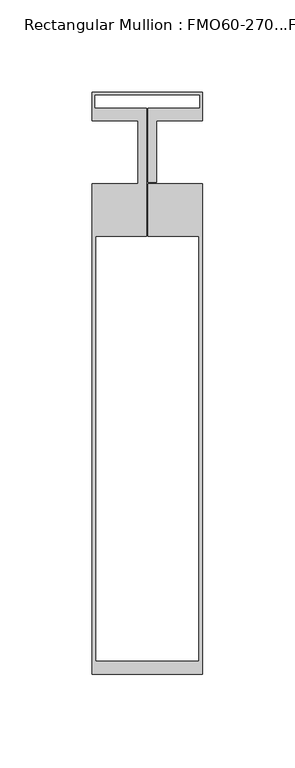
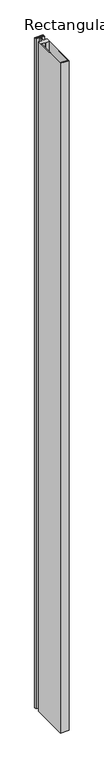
"""IFC4 building model written with IfcOpenShell, lengths in millimetres: member geometry, Rectangular Mullion : FMO60-270...FM60-11."""

import ifcopenshell
import ifcopenshell.guid

model = None  # the IFC model being written
_history = None  # IfcOwnerHistory: only IFC2X3 demands one
_inside = {}  # id of a spatial element -> (the spatial element, [elements in it])
_under = {}  # id of a project, library or spatial element -> (it, [spatial elements below it])
_declared = {}  # id of a project -> (the project, [libraries it declares])
_typed = {}  # id of a type object -> (the type object, [elements of that type])
_made_of = {}  # id of a material, layer set ... -> (it, [elements and type objects made of it])


def new_model(schema):
    """Start an empty IFC model of exactly this schema.

    Asked for "IFC4X3", IfcOpenShell would pick the latest addendum, in which some entities
    have other attributes; the version numbers below select the first issue.
    IFC2X3 requires an IfcOwnerHistory on every rooted entity: one is made here for all.
    """
    global model, _history
    if schema == "IFC4X3":
        model = ifcopenshell.file(schema_version=(4, 3, 0, 0))
    else:
        model = ifcopenshell.file(schema=schema)
    _inside.clear()
    _under.clear()
    _declared.clear()
    _typed.clear()
    _made_of.clear()
    _history = None
    if model.schema == "IFC2X3":
        org = make("IfcOrganization", Name="unknown")
        user = make(
            "IfcPersonAndOrganization",
            ThePerson=make("IfcPerson", FamilyName="unknown"),
            TheOrganization=org,
        )
        app = make(
            "IfcApplication",
            ApplicationDeveloper=org,
            Version="unknown",
            ApplicationFullName="unknown",
            ApplicationIdentifier="unknown",
        )
        _history = make(
            "IfcOwnerHistory",
            OwningUser=user,
            OwningApplication=app,
            ChangeAction="ADDED",
            CreationDate=0,
        )
    return model


def make(cls, **values):
    """One entity of the class cls with the attributes given. An attribute that is None is left unset."""
    return model.create_entity(
        cls, **{name: value for name, value in values.items() if value is not None}
    )


def rooted(cls, **values):
    """An entity with a GlobalId (a new one), such as an element, a storey or a relation."""
    return make(cls, GlobalId=ifcopenshell.guid.new(), OwnerHistory=_history, **values)


def si_unit(unit_type, name, prefix=None):
    """IfcSIUnit, for example si_unit("LENGTHUNIT", "METRE", prefix="MILLI")."""
    return make("IfcSIUnit", UnitType=unit_type, Prefix=prefix, Name=name)


def assignment(units):
    """IfcUnitAssignment: the units of a project."""
    return None if units is None else make("IfcUnitAssignment", Units=units)


def point(xyz):
    """IfcCartesianPoint."""
    return None if xyz is None else make("IfcCartesianPoint", Coordinates=xyz)


def direction(xyz):
    """IfcDirection."""
    return None if xyz is None else make("IfcDirection", DirectionRatios=xyz)


def frame(location, z_axis=None, x_axis=None):
    """IfcAxis2Placement3D, a coordinate frame: its origin and axes. An axis left out is left unset."""
    return make(
        "IfcAxis2Placement3D",
        Location=point(location),
        Axis=direction(z_axis),
        RefDirection=direction(x_axis),
    )


def frame_2d(location, x_axis=None):
    """IfcAxis2Placement2D, a coordinate frame in the plane: its origin and x axis."""
    return make(
        "IfcAxis2Placement2D", Location=point(location), RefDirection=direction(x_axis)
    )


def origin():
    """The frame at (0, 0, 0) with its axes left unset."""
    return frame((0.0, 0.0, 0.0))


def place(relative_to, where):
    """IfcLocalPlacement: puts the frame where relative to a parent placement (None: the world)."""
    return make(
        "IfcLocalPlacement", PlacementRelTo=relative_to, RelativePlacement=where
    )


def context(
    kind, dimensions, precision=None, world=None, true_north=None, identifier=None
):
    """IfcGeometricRepresentationContext, for example the 3D "Model" context."""
    return make(
        "IfcGeometricRepresentationContext",
        ContextIdentifier=identifier,
        ContextType=kind,
        CoordinateSpaceDimension=dimensions,
        Precision=precision,
        WorldCoordinateSystem=world,
        TrueNorth=true_north,
    )


def project(units=None, contexts=None):
    """IfcProject with its units and contexts."""
    return rooted(
        "IfcProject",
        Name="project",
        RepresentationContexts=contexts,
        UnitsInContext=assignment(units),
    )


def spatial(cls, under=None, at=None, **own):
    """A site, building, storey or space (cls), placed at a placement, below another one or the project."""
    s = rooted(cls, ObjectPlacement=at, **own)
    if under is not None:
        _under.setdefault(under.id(), (under, []))[1].append(s)
    return s


def polyline(points):
    """IfcPolyline through the points."""
    return make("IfcPolyline", Points=[point(p) for p in points])


def circle_curve(where, radius):
    """IfcCircle in the frame where."""
    return make("IfcCircle", Position=where, Radius=radius)


def trimmed(basis, trim1, trim2, sense, master):
    """IfcTrimmedCurve: the piece of a basis curve between two trims."""
    return make(
        "IfcTrimmedCurve",
        BasisCurve=basis,
        Trim1=trim1,
        Trim2=trim2,
        SenseAgreement=sense,
        MasterRepresentation=master,
    )


def segment(curve, same_sense, transition):
    """IfcCompositeCurveSegment."""
    return make(
        "IfcCompositeCurveSegment",
        Transition=transition,
        SameSense=same_sense,
        ParentCurve=curve,
    )


def composite_curve(segments, self_intersect=None):
    """IfcCompositeCurve: segments joined end to end."""
    return make("IfcCompositeCurve", Segments=segments, SelfIntersect=self_intersect)


def outline(outer, holes=None, kind="AREA"):
    """IfcArbitraryClosedProfileDef: a profile drawn as a closed curve; with holes, ...WithVoids."""
    if holes is None:
        return make("IfcArbitraryClosedProfileDef", ProfileType=kind, OuterCurve=outer)
    return make(
        "IfcArbitraryProfileDefWithVoids",
        ProfileType=kind,
        OuterCurve=outer,
        InnerCurves=holes,
    )


def extrude(swept, where, along, depth):
    """IfcExtrudedAreaSolid: the profile swept, set in the frame where, extruded along a direction by depth."""
    return make(
        "IfcExtrudedAreaSolid",
        SweptArea=swept,
        Position=where,
        ExtrudedDirection=direction(along),
        Depth=depth,
    )


def shape(context_of_items, identifier, shape_type, items):
    """IfcShapeRepresentation: the items that make up one representation, for example the "Body"."""
    return make(
        "IfcShapeRepresentation",
        ContextOfItems=context_of_items,
        RepresentationIdentifier=identifier,
        RepresentationType=shape_type,
        Items=items,
    )


def source(mapping_origin, context_of_items, identifier, shape_type, items):
    """IfcRepresentationMap: a shape defined once, which mapped items show again and again."""
    return make(
        "IfcRepresentationMap",
        MappingOrigin=mapping_origin,
        MappedRepresentation=shape(context_of_items, identifier, shape_type, items),
    )


def transform(
    local_origin,
    x_axis=None,
    y_axis=None,
    z_axis=None,
    scale=None,
    scale2=None,
    scale3=None,
    uniform=True,
):
    """IfcCartesianTransformationOperator3D, or its non-uniform kind. x_axis, y_axis, z_axis: its Axis1, 2, 3."""
    if uniform:
        return make(
            "IfcCartesianTransformationOperator3D",
            Axis1=direction(x_axis),
            Axis2=direction(y_axis),
            LocalOrigin=point(local_origin),
            Scale=scale,
            Axis3=direction(z_axis),
        )
    return make(
        "IfcCartesianTransformationOperator3DnonUniform",
        Axis1=direction(x_axis),
        Axis2=direction(y_axis),
        LocalOrigin=point(local_origin),
        Scale=scale,
        Axis3=direction(z_axis),
        Scale2=scale2,
        Scale3=scale3,
    )


def mapped(mapping_source, mapping_target):
    """IfcMappedItem: shows the shape of a source again, moved by a transform."""
    return make(
        "IfcMappedItem", MappingSource=mapping_source, MappingTarget=mapping_target
    )


def made_of(thing, what):
    """Note that an element or type object is made of a material, layer set ...; save() writes the relation."""
    if what is not None:
        _made_of.setdefault(what.id(), (what, []))[1].append(thing)
    return thing


def element(
    cls,
    number,
    at=None,
    inside=None,
    cuts=None,
    type_object=None,
    material=None,
    context=None,
    identifier="Body",
    shape_type=None,
    held_by="IfcProductDefinitionShape",
    body=None,
    shapes=None,
    **own,
):
    """One element of the class cls, such as IfcWall. Its Tag is "e" and its number.

    at: its placement. inside: the storey or other place that contains it. cuts: it is an
    opening in that element (IfcRelVoidsElement). A single representation is given by context,
    identifier, shape_type and body (its items); several are given by shapes. held_by: the class
    of the entity that holds the representations. save() writes the other relations.
    """
    e = rooted(cls, Tag="e%d" % number, ObjectPlacement=at, **own)
    if body is not None:
        shapes = [shape(context, identifier, shape_type, body)]
    if shapes is not None:
        e.Representation = make(held_by, Representations=shapes)
    if inside is not None:
        _inside.setdefault(inside.id(), (inside, []))[1].append(e)
    if cuts is not None:
        rooted(
            "IfcRelVoidsElement", RelatingBuildingElement=cuts, RelatedOpeningElement=e
        )
    if type_object is not None:
        _typed.setdefault(type_object.id(), (type_object, []))[1].append(e)
    return made_of(e, material)


def aggregate(whole, parts):
    """IfcRelAggregates: a whole, such as a stair, and the parts it consists of."""
    return rooted("IfcRelAggregates", RelatingObject=whole, RelatedObjects=parts)


def save(model, path):
    """Write the relations noted so far, then the file.

    IfcRelAggregates (storeys below a building ...), IfcRelContainedInSpatialStructure (elements
    in a storey), IfcRelDefinesByType, IfcRelAssociatesMaterial and IfcRelDeclares: one each for
    every whole, place, type object, material and project.
    """
    for whole, parts in _under.values():
        aggregate(whole, parts)
    for where, things in _inside.values():
        rooted(
            "IfcRelContainedInSpatialStructure",
            RelatedElements=things,
            RelatingStructure=where,
        )
    for kind, things in _typed.values():
        rooted("IfcRelDefinesByType", RelatedObjects=things, RelatingType=kind)
    for what, things in _made_of.values():
        rooted("IfcRelAssociatesMaterial", RelatedObjects=things, RelatingMaterial=what)
    for by, libraries in _declared.values():
        rooted("IfcRelDeclares", RelatingContext=by, RelatedDefinitions=libraries)
    model.write(path)


def rectangular_mullion_fmo60_270_fm60_11_9d2d0bc5(model_context):
    return source(origin(), model_context, "Body", "SweptSolid", [
        extrude(outline(composite_curve([segment(polyline([(-29.5, 32.5117899), (29.5, 32.5117899)]), True, "CONTINUOUS"), segment(trimmed(circle_curve(frame_2d((29.5, 32.0117899)), 0.5), [point((29.5, 32.5117899))], [point((30.0, 32.0117899))], False, "CARTESIAN"), True, "CONTINUOUS"), segment(polyline([(30.0, 32.0117899), (30.0, 17.0), (5.0, 17.0), (5.0, -16.2), (0.5, -16.2), (0.5, 23.8476589), (28.7000001, 23.8476589), (28.7000001, 31.2004689), (-28.7, 31.2004689), (-28.7, 23.8476589), (-0.5, 23.8476589), (-0.5, -45.5034642), (-28.0, -45.5034642), (-28.0, -276.0034417), (28.0, -276.0034417), (28.0, -45.5034642), (0.5, -45.5034642), (0.5, -17.0), (30.0, -17.0), (30.0, -283.009342), (-30.0, -283.009342), (-30.0, -17.0), (-5.0, -17.0), (-5.0, 17.0), (-30.0, 17.0), (-30.0, 32.0117899)]), True, "CONTINUOUS"), segment(trimmed(circle_curve(frame_2d((-29.5, 32.0117899)), 0.5), [point((-30.0, 32.0117899))], [point((-29.5, 32.5117899))], False, "CARTESIAN"), True, "CONTINUOUS")], self_intersect=False)), frame((0.0, 0.0, -5000.0), z_axis=(0.0, 0.0, 1.0), x_axis=(1.0, 0.0, 0.0)), (0.0, 0.0, 1.0), 5000.0),
    ])


if __name__ == "__main__":
    model = new_model("IFC4")
    model_context = context("Model", 3, world=origin())
    ifc_project = project(units=[si_unit("LENGTHUNIT", "METRE", prefix="MILLI")], contexts=[model_context])
    site = spatial("IfcSite", under=ifc_project)
    building = spatial("IfcBuilding", under=site)
    placement = place(None, origin())
    rectangular_mullion_fmo60_270_fm60_11_shape = rectangular_mullion_fmo60_270_fm60_11_9d2d0bc5(model_context)
    element("IfcMember", 1, ObjectType="Rectangular Mullion : FMO60-270...FM60-11", at=placement, inside=building, context=model_context, shape_type="MappedRepresentation", body=[
        mapped(rectangular_mullion_fmo60_270_fm60_11_shape, transform((0.0, 0.0, 0.0), x_axis=(1.0, 0.0, 0.0), y_axis=(0.0, 1.0, 0.0), z_axis=(0.0, 0.0, 1.0))),
    ])
    save(model, "model.ifc")
